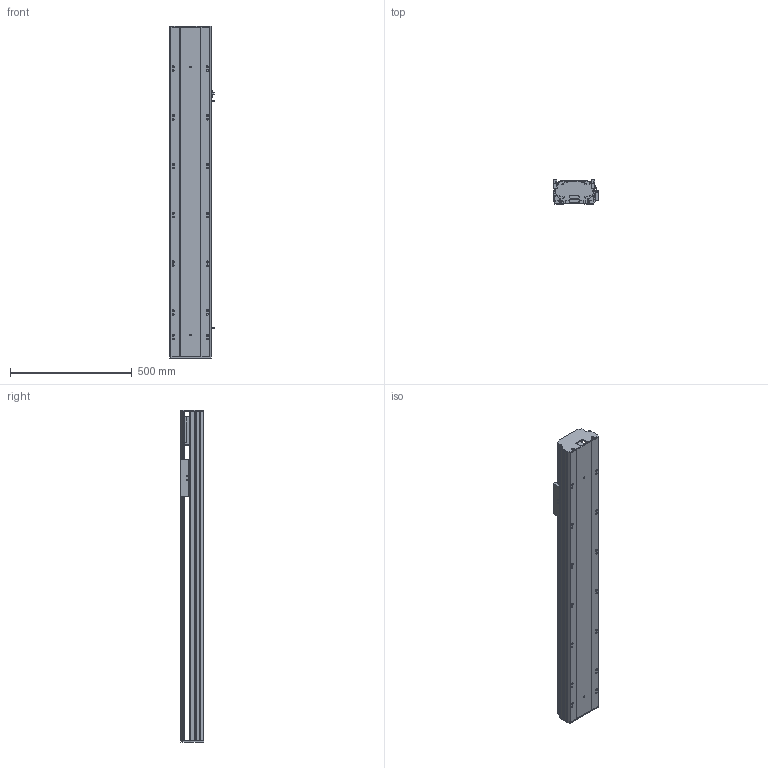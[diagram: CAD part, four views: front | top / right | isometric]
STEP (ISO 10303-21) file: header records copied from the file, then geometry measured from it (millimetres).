
FILE_DESCRIPTION (( 'STEP AP203' ), '1' );
FILE_NAME ('Y170-D10-S950-M-P400W.STEP', '2020-01-22T12:58:10', ( '微软用户' ), ( '微软中国' ), 'SwSTEP 2.0', 'SolidWorks 2017', '' );
FILE_SCHEMA (( 'CONFIG_CONTROL_DESIGN' ));
Length unit declared in the file: millimetre
Products named in the file (10): 170--掛极-M; Y170耜裔--準---M; san松下电机400不带刹车----; Y170-陔遴奻裔-M; YD-Y100-135-新外置传感挡片(通用）; Y170-D10-S950-M-P400W; Y100-135俋离換覜ん; 135-盓傅釱-FK15; Y170耜裔--準---; Y170--雄赽釱-梓--
Assembly tree (11 placements, depth 2):
  Y170-D10-S950-M-P400W
    YD-Y100-135-新外置传感挡片(通用）
    Y100-135俋离換覜ん  x3
    135-盓傅釱-FK15
    Y170耜裔--準---
    Y170--雄赽釱-梓--
    170--掛极-M
    Y170耜裔--準---M
    san松下电机400不带刹车----
    Y170-陔遴奻裔-M
Bounding box: 183.5 x 97 x 1361 mm (x, y, z)
Volume: 5854119.6 mm3; surface area: 2074994.4 mm2
Topology: 11 solids, 11 shells, 797 faces, 2276 edges, 1508 vertices
Faces by surface type: cylinder 411, plane 384, torus 2
Entity records: 25980 total; most frequent: CARTESIAN_POINT 4681, DIRECTION 4302, ORIENTED_EDGE 4216, EDGE_CURVE 2108, AXIS2_PLACEMENT_3D 1529, VERTEX_POINT 1396, LINE 1244, VECTOR 1244
